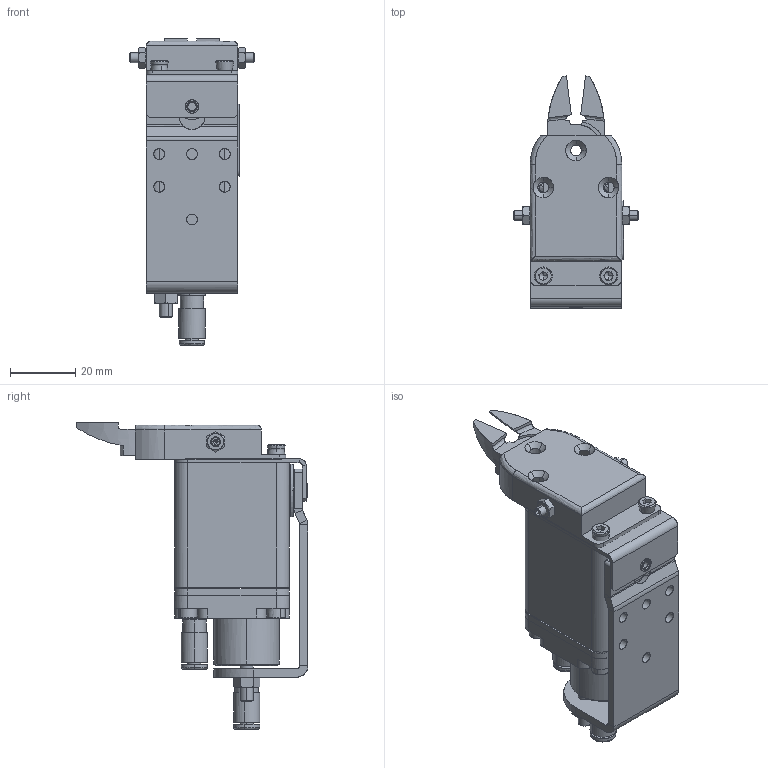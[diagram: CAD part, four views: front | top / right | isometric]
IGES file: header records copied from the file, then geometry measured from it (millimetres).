
Start section: SolidWorks IGES file using analytic representation for surfaces
Global section: file name: \\Ss-share1\share\030eins事業部\技術課\☆eins parts 量産図\3D\切る\NW3\Web用データ\131725.IGS; native system: SolidWorks 2021; preprocessor: SolidWorks 2021; author: STAR050C; date: 230804.164707; units: millimetre
Bounding box: 38 x 70.81 x 93.6 mm (x, y, z)
Surface area: 27984.2 mm2 (no closed solid volume)
Topology: 0 solids, 0 shells, 562 faces, 7835 edges, 7807 vertices
Faces by surface type: bspline 448, revolution 114
